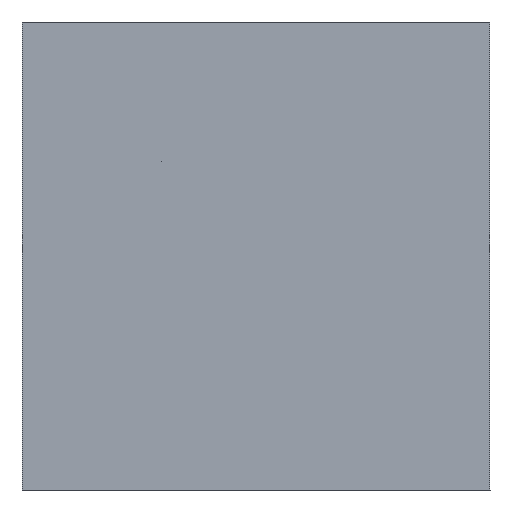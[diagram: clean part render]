
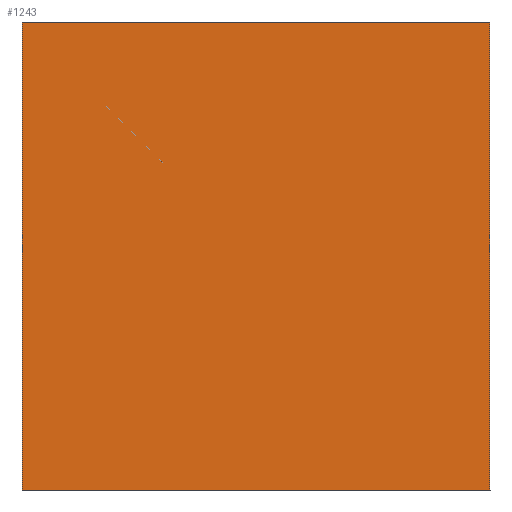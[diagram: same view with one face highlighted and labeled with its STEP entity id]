
A CAD part, left-side view. The second image highlights one B-rep face of the part: STEP entity #1243.
In plain terms, the highlighted planar face has unit normal (-1, 0, 0).
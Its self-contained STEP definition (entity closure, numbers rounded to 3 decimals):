
#25 = EDGE_CURVE ( 'NONE', #1756, #2262, #200, .T. ) ;
#97 = VECTOR ( 'NONE', #1410, 1000. ) ;
#190 = VERTEX_POINT ( 'NONE', #1167 ) ;
#200 = LINE ( 'NONE', #1240, #2122 ) ;
#221 = DIRECTION ( 'NONE',  ( 0., -1., 0. ) ) ;
#255 = VECTOR ( 'NONE', #2222, 1000. ) ;
#276 = FACE_OUTER_BOUND ( 'NONE', #736, .T. ) ;
#291 = ORIENTED_EDGE ( 'NONE', *, *, #332, .T. ) ;
#332 = EDGE_CURVE ( 'NONE', #1756, #190, #2009, .T. ) ;
#459 = PLANE ( 'NONE',  #1442 ) ;
#474 = CARTESIAN_POINT ( 'NONE',  ( -5.3, -5.3, 5.3 ) ) ;
#646 = DIRECTION ( 'NONE',  ( 1., 0., 0. ) ) ;
#736 = EDGE_LOOP ( 'NONE', ( #2359, #1117, #1810, #291 ) ) ;
#839 = EDGE_CURVE ( 'NONE', #2262, #2275, #1248, .T. ) ;
#918 = CARTESIAN_POINT ( 'NONE',  ( -5.3, -5.3, 5.3 ) ) ;
#935 = CARTESIAN_POINT ( 'NONE',  ( -5.3, 5.3, -5.3 ) ) ;
#989 = CARTESIAN_POINT ( 'NONE',  ( -5.3, 5.3, 5.3 ) ) ;
#1117 = ORIENTED_EDGE ( 'NONE', *, *, #839, .F. ) ;
#1167 = CARTESIAN_POINT ( 'NONE',  ( -5.3, 5.3, -5.3 ) ) ;
#1240 = CARTESIAN_POINT ( 'NONE',  ( -5.3, 5.3, 5.3 ) ) ;
#1243 = ADVANCED_FACE ( 'NONE', ( #276 ), #459, .F. ) ;
#1248 = LINE ( 'NONE', #474, #2168 ) ;
#1253 = LINE ( 'NONE', #935, #255 ) ;
#1410 = DIRECTION ( 'NONE',  ( 0., 0., -1. ) ) ;
#1442 = AXIS2_PLACEMENT_3D ( 'NONE', #2108, #646, #1935 ) ;
#1754 = DIRECTION ( 'NONE',  ( 0., 0., -1. ) ) ;
#1756 = VERTEX_POINT ( 'NONE', #2195 ) ;
#1810 = ORIENTED_EDGE ( 'NONE', *, *, #25, .F. ) ;
#1935 = DIRECTION ( 'NONE',  ( 0., 1., 0. ) ) ;
#2009 = LINE ( 'NONE', #989, #97 ) ;
#2108 = CARTESIAN_POINT ( 'NONE',  ( -5.3, 5.3, 5.3 ) ) ;
#2122 = VECTOR ( 'NONE', #221, 1000. ) ;
#2168 = VECTOR ( 'NONE', #1754, 1000. ) ;
#2195 = CARTESIAN_POINT ( 'NONE',  ( -5.3, 5.3, 5.3 ) ) ;
#2196 = CARTESIAN_POINT ( 'NONE',  ( -5.3, -5.3, -5.3 ) ) ;
#2222 = DIRECTION ( 'NONE',  ( 0., -1., 0. ) ) ;
#2262 = VERTEX_POINT ( 'NONE', #918 ) ;
#2275 = VERTEX_POINT ( 'NONE', #2196 ) ;
#2359 = ORIENTED_EDGE ( 'NONE', *, *, #2372, .T. ) ;
#2372 = EDGE_CURVE ( 'NONE', #190, #2275, #1253, .T. ) ;
